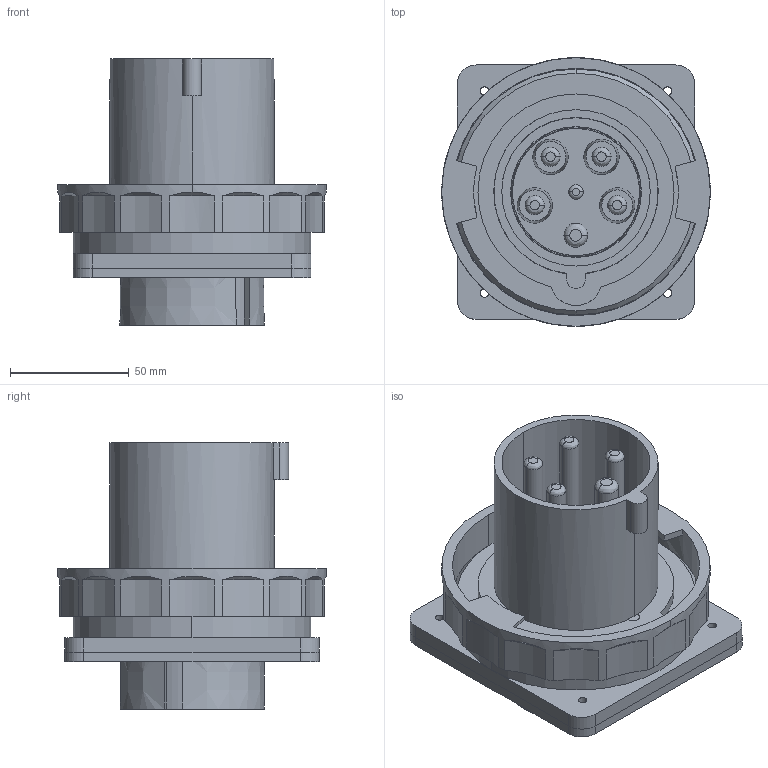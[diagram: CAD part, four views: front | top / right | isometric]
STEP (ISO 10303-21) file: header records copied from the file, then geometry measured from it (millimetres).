
FILE_DESCRIPTION((''),'2;1');
FILE_NAME('81883_3D-SIMPLIFIED_ASM','2023-03-28T11:52:39',('melanie.cordero'),(''),'CREO PARAMETRIC BY PTC INC, 2018260','CREO PARAMETRIC BY PTC INC, 2018260','');
FILE_SCHEMA(('CONFIG_CONTROL_DESIGN'));
Length unit declared in the file: millimetre
Products named in the file (9): PRT01; PRT02; PRT03; PRT04; PRT05; PRT06; PRT07; PRT08; 81883_3D-SIMPLIFIED_ASM
Assembly tree (13 placements, depth 2):
  81883_3D-SIMPLIFIED_ASM
    PRT01
    PRT02
    PRT03
    PRT04
    PRT05
    PRT06
    PRT07  x4
    PRT08  x3
Bounding box: 113 x 113 x 112 mm (x, y, z)
Volume: 340249.1 mm3; surface area: 152525 mm2
Topology: 13 solids, 13 shells, 545 faces, 1503 edges, 1016 vertices
Faces by surface type: cylinder 234, plane 227, cone 58, bspline 12, sphere 8, torus 6
Entity records: 15915 total; most frequent: CARTESIAN_POINT 3341, DIRECTION 2841, ORIENTED_EDGE 2518, EDGE_CURVE 1259, AXIS2_PLACEMENT_3D 1180, VERTEX_POINT 857, CIRCLE 712, EDGE_LOOP 538
